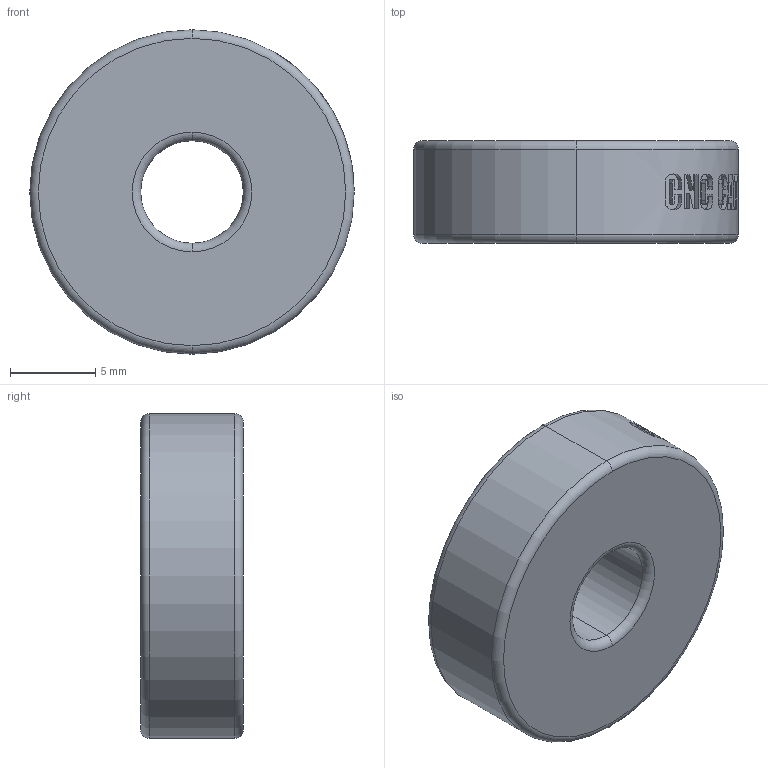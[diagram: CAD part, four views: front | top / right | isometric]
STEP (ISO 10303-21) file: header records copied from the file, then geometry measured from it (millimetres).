
FILE_DESCRIPTION (( 'STEP AP203' ), '1' );
FILE_NAME ('6X19X6.STEP', '2017-08-13T07:41:08', ( '' ), ( '' ), 'SwSTEP 2.0', 'SolidWorks 2014', '' );
FILE_SCHEMA (( 'CONFIG_CONTROL_DESIGN' ));
Length unit declared in the file: millimetre
Products named in the file (1): 6X19X6
Bounding box: 19 x 6 x 19 mm (x, y, z)
Volume: 1519.7 mm3; surface area: 963.1 mm2
Topology: 1 solids, 1 shells, 98 faces, 259 edges, 170 vertices
Faces by surface type: plane 47, bspline 32, cylinder 11, torus 8
Entity records: 6640 total; most frequent: CARTESIAN_POINT 4392, ORIENTED_EDGE 518, DIRECTION 340, EDGE_CURVE 259, VERTEX_POINT 170, AXIS2_PLACEMENT_3D 129, B_SPLINE_CURVE_WITH_KNOTS 115, EDGE_LOOP 107
